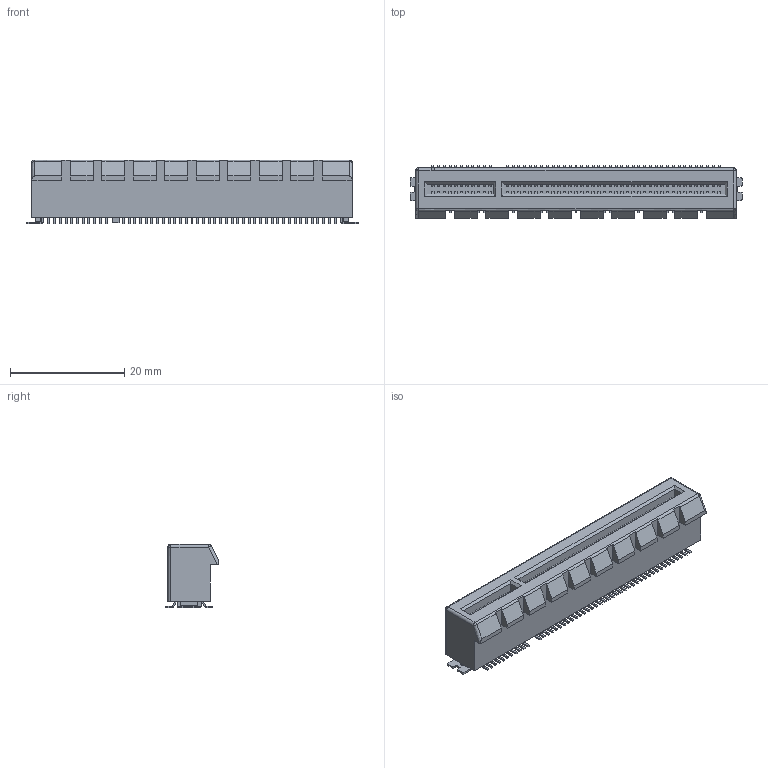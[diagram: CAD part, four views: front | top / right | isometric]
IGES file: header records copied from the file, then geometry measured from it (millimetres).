
Start section: SolidWorks IGES file using analytic representation for surfaces
Global section: file name: F:\UMaxcoonͼֽ\3Dͼֽ\3113-3D\3113-X8\3166-X8\3166-X8.IGS; native system: SolidWorks 2008; preprocessor: SolidWorks 2008; author: Wang; date: 201110.173040; units: millimetre
Bounding box: 58 x 9.2 x 11.1 mm (x, y, z)
Surface area: 3490.5 mm2 (no closed solid volume)
Topology: 0 solids, 0 shells, 1552 faces, 9699 edges, 9692 vertices
Faces by surface type: bspline 1116, revolution 436
